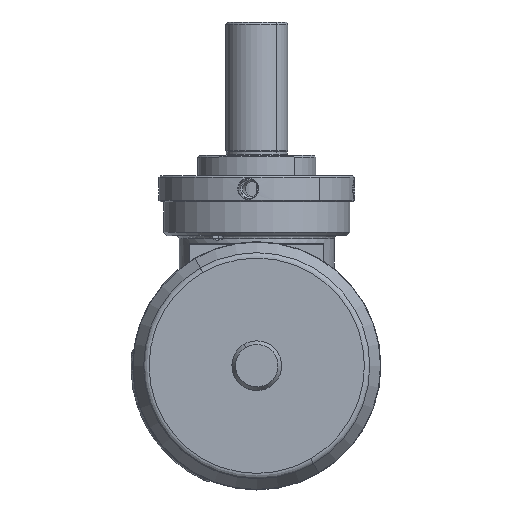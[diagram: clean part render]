
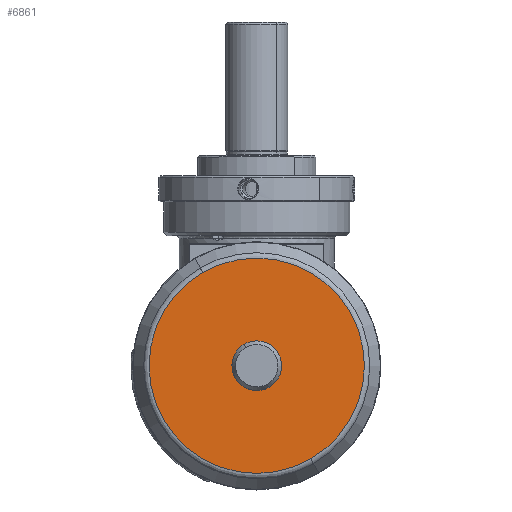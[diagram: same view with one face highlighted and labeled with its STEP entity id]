
A CAD part, top view. The second image highlights one B-rep face of the part: STEP entity #6861.
In plain terms, the highlighted planar face has unit normal (0, 0, 1) as drawn and (0, -1, 0) by its records, which use the part's own axes.
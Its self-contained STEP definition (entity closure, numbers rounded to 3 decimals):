
#299 = VERTEX_POINT ( 'NONE', #9198 ) ;
#990 = EDGE_CURVE ( 'NONE', #21022, #16411, #13415, .T. ) ;
#1024 = ORIENTED_EDGE ( 'NONE', *, *, #9748, .T. ) ;
#1845 = CARTESIAN_POINT ( 'NONE',  ( 0., -19.1, 7.75 ) ) ;
#2721 = CARTESIAN_POINT ( 'NONE',  ( 0., -19.1, 0. ) ) ;
#3451 = EDGE_CURVE ( 'NONE', #299, #18104, #24152, .T. ) ;
#3531 = EDGE_LOOP ( 'NONE', ( #25284, #24626 ) ) ;
#3634 = CARTESIAN_POINT ( 'NONE',  ( 0., -19.1, -7.75 ) ) ;
#4298 = FACE_OUTER_BOUND ( 'NONE', #19047, .T. ) ;
#4546 = DIRECTION ( 'NONE',  ( 0., 0., 1. ) ) ;
#6600 = AXIS2_PLACEMENT_3D ( 'NONE', #9233, #7352, #17193 ) ;
#6861 = ADVANCED_FACE ( 'NONE', ( #22670, #4298 ), #8611, .T. ) ;
#7352 = DIRECTION ( 'NONE',  ( 0., 1., 0. ) ) ;
#7754 = DIRECTION ( 'NONE',  ( 0., -1., 0. ) ) ;
#8572 = CARTESIAN_POINT ( 'NONE',  ( 0., -19.1, -34.688 ) ) ;
#8611 = PLANE ( 'NONE',  #23953 ) ;
#8742 = ORIENTED_EDGE ( 'NONE', *, *, #3451, .T. ) ;
#9198 = CARTESIAN_POINT ( 'NONE',  ( 0., -19.1, 34.688 ) ) ;
#9233 = CARTESIAN_POINT ( 'NONE',  ( 0., -19.1, 0. ) ) ;
#9748 = EDGE_CURVE ( 'NONE', #18104, #299, #12355, .T. ) ;
#11268 = AXIS2_PLACEMENT_3D ( 'NONE', #25038, #15050, #4546 ) ;
#12276 = CARTESIAN_POINT ( 'NONE',  ( -25.236, -19.1, 6.999 ) ) ;
#12355 = CIRCLE ( 'NONE', #17083, 34.688 ) ;
#13415 = CIRCLE ( 'NONE', #11268, 7.75 ) ;
#15050 = DIRECTION ( 'NONE',  ( 0., 1., 0. ) ) ;
#16411 = VERTEX_POINT ( 'NONE', #1845 ) ;
#17083 = AXIS2_PLACEMENT_3D ( 'NONE', #18268, #7754, #18128 ) ;
#17193 = DIRECTION ( 'NONE',  ( 0., 0., 1. ) ) ;
#17416 = DIRECTION ( 'NONE',  ( 0., -1., 0. ) ) ;
#18104 = VERTEX_POINT ( 'NONE', #8572 ) ;
#18128 = DIRECTION ( 'NONE',  ( 0., 0., -1. ) ) ;
#18268 = CARTESIAN_POINT ( 'NONE',  ( 0., -19.1, 0. ) ) ;
#18864 = DIRECTION ( 'NONE',  ( 0., 0., -1. ) ) ;
#19047 = EDGE_LOOP ( 'NONE', ( #1024, #8742 ) ) ;
#19134 = EDGE_CURVE ( 'NONE', #16411, #21022, #19496, .T. ) ;
#19175 = DIRECTION ( 'NONE',  ( 0., 0., -1. ) ) ;
#19496 = CIRCLE ( 'NONE', #6600, 7.75 ) ;
#21022 = VERTEX_POINT ( 'NONE', #3634 ) ;
#22670 = FACE_BOUND ( 'NONE', #3531, .T. ) ;
#22865 = AXIS2_PLACEMENT_3D ( 'NONE', #2721, #17416, #19175 ) ;
#23953 = AXIS2_PLACEMENT_3D ( 'NONE', #12276, #26698, #18864 ) ;
#24152 = CIRCLE ( 'NONE', #22865, 34.688 ) ;
#24626 = ORIENTED_EDGE ( 'NONE', *, *, #990, .T. ) ;
#25038 = CARTESIAN_POINT ( 'NONE',  ( 0., -19.1, 0. ) ) ;
#25284 = ORIENTED_EDGE ( 'NONE', *, *, #19134, .T. ) ;
#26698 = DIRECTION ( 'NONE',  ( 0., -1., 0. ) ) ;
